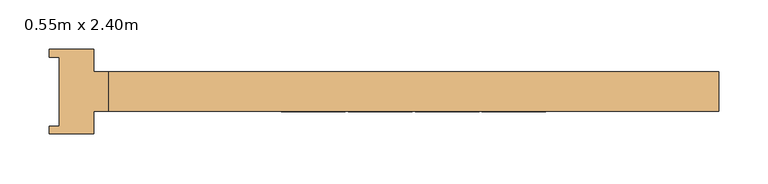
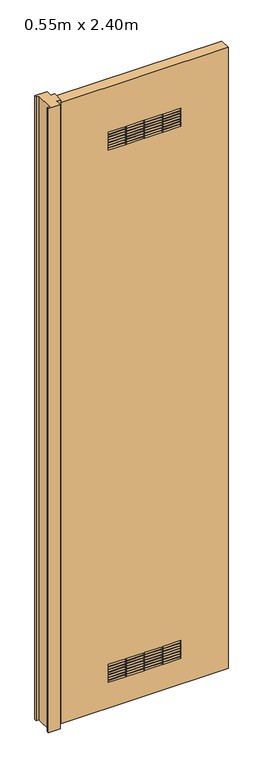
"""IFC4 building model written with IfcOpenShell, lengths in millimetres: door geometry, Va et vient simple - Panneau plein_GM : 0.55m x 2.40m."""

from ifc_helpers import new_model, si_unit, frame, origin, origin_with_axes, place, context, project, spatial, polyline, outline, extrude, source, transform, mapped, element, save


def door_0_55m_x_2_40m_4e9f651c(model_context):
    return source(origin(), model_context, "Body", "SweptSolid", [
        extrude(outline(polyline([(-360.0, -35.0), (-360.0, 35.0), (-370.0, 35.0), (-370.0, 43.0), (-325.0, 43.0), (-325.0, 20.0), (-310.0, 20.0), (-310.0, -20.0), (-325.0, -20.0), (-325.0, -43.0), (-370.0, -43.0), (-370.0, -35.0), (-360.0, -35.0)])), origin_with_axes(), (0.0, 0.0, 1.0), 2445.0),
        extrude(outline(polyline([(2435.0, 310.0), (2435.0, -310.0), (0.0, -310.0), (0.0, 310.0), (2435.0, 310.0)]), holes=[polyline([(2249.4836564, -69.5), (2249.4836564, -134.5), (2256.9836564, -134.5), (2256.9836564, -69.5), (2249.4836564, -69.5)]), polyline([(2238.9836564, -69.5), (2238.9836564, -134.5), (2246.4836564, -134.5), (2246.4836564, -69.5), (2238.9836564, -69.5)]), polyline([(2228.4836564, -69.5), (2228.4836564, -134.5), (2235.9836564, -134.5), (2235.9836564, -69.5), (2228.4836564, -69.5)]), polyline([(2217.9836564, -69.5), (2217.9836564, -134.5), (2225.4836564, -134.5), (2225.4836564, -69.5), (2217.9836564, -69.5)]), polyline([(2207.4836564, -69.5), (2207.4836564, -134.5), (2214.9836564, -134.5), (2214.9836564, -69.5), (2207.4836564, -69.5)]), polyline([(2196.9836564, -69.5), (2196.9836564, -134.5), (2204.4836564, -134.5), (2204.4836564, -69.5), (2196.9836564, -69.5)]), polyline([(2186.4836564, -69.5), (2186.4836564, -134.5), (2193.9836564, -134.5), (2193.9836564, -69.5), (2186.4836564, -69.5)]), polyline([(2249.4836564, -1.5), (2249.4836564, -66.5), (2256.9836564, -66.5), (2256.9836564, -1.5), (2249.4836564, -1.5)]), polyline([(2238.9836564, -1.5), (2238.9836564, -66.5), (2246.4836564, -66.5), (2246.4836564, -1.5), (2238.9836564, -1.5)]), polyline([(2228.4836564, -1.5), (2228.4836564, -66.5), (2235.9836564, -66.5), (2235.9836564, -1.5), (2228.4836564, -1.5)]), polyline([(2217.9836564, -1.5), (2217.9836564, -66.5), (2225.4836564, -66.5), (2225.4836564, -1.5), (2217.9836564, -1.5)]), polyline([(2207.4836564, -1.5), (2207.4836564, -66.5), (2214.9836564, -66.5), (2214.9836564, -1.5), (2207.4836564, -1.5)]), polyline([(2196.9836564, -1.5), (2196.9836564, -66.5), (2204.4836564, -66.5), (2204.4836564, -1.5), (2196.9836564, -1.5)]), polyline([(2186.4836564, -1.5), (2186.4836564, -66.5), (2193.9836564, -66.5), (2193.9836564, -1.5), (2186.4836564, -1.5)]), polyline([(2249.4836564, 66.5), (2249.4836564, 1.5), (2256.9836564, 1.5), (2256.9836564, 66.5), (2249.4836564, 66.5)]), polyline([(2238.9836564, 66.5), (2238.9836564, 1.5), (2246.4836564, 1.5), (2246.4836564, 66.5), (2238.9836564, 66.5)]), polyline([(2228.4836564, 66.5), (2228.4836564, 1.5), (2235.9836564, 1.5), (2235.9836564, 66.5), (2228.4836564, 66.5)]), polyline([(2217.9836564, 66.5), (2217.9836564, 1.5), (2225.4836564, 1.5), (2225.4836564, 66.5), (2217.9836564, 66.5)]), polyline([(2207.4836564, 66.5), (2207.4836564, 1.5), (2214.9836564, 1.5), (2214.9836564, 66.5), (2207.4836564, 66.5)]), polyline([(2196.9836564, 66.5), (2196.9836564, 1.5), (2204.4836564, 1.5), (2204.4836564, 66.5), (2196.9836564, 66.5)]), polyline([(2186.4836564, 66.5), (2186.4836564, 1.5), (2193.9836564, 1.5), (2193.9836564, 66.5), (2186.4836564, 66.5)]), polyline([(2249.4836564, 134.5), (2249.4836564, 69.5), (2256.9836564, 69.5), (2256.9836564, 134.5), (2249.4836564, 134.5)]), polyline([(2238.9836564, 134.5), (2238.9836564, 69.5), (2246.4836564, 69.5), (2246.4836564, 134.5), (2238.9836564, 134.5)]), polyline([(2228.4836564, 134.5), (2228.4836564, 69.5), (2235.9836564, 69.5), (2235.9836564, 134.5), (2228.4836564, 134.5)]), polyline([(2217.9836564, 134.5), (2217.9836564, 69.5), (2225.4836564, 69.5), (2225.4836564, 134.5), (2217.9836564, 134.5)]), polyline([(2207.4836564, 134.5), (2207.4836564, 69.5), (2214.9836564, 69.5), (2214.9836564, 134.5), (2207.4836564, 134.5)]), polyline([(2196.9836564, 134.5), (2196.9836564, 69.5), (2204.4836564, 69.5), (2204.4836564, 134.5), (2196.9836564, 134.5)]), polyline([(2186.4836564, 134.5), (2186.4836564, 69.5), (2193.9836564, 69.5), (2193.9836564, 134.5), (2186.4836564, 134.5)]), polyline([(163.0, -69.5), (163.0, -134.5), (170.5, -134.5), (170.5, -69.5), (163.0, -69.5)]), polyline([(152.5, -69.5), (152.5, -134.5), (160.0, -134.5), (160.0, -69.5), (152.5, -69.5)]), polyline([(142.0, -69.5), (142.0, -134.5), (149.5, -134.5), (149.5, -69.5), (142.0, -69.5)]), polyline([(131.5, -69.5), (131.5, -134.5), (139.0, -134.5), (139.0, -69.5), (131.5, -69.5)]), polyline([(121.0, -69.5), (121.0, -134.5), (128.5, -134.5), (128.5, -69.5), (121.0, -69.5)]), polyline([(110.5, -69.5), (110.5, -134.5), (118.0, -134.5), (118.0, -69.5), (110.5, -69.5)]), polyline([(100.0, -69.5), (100.0, -134.5), (107.5, -134.5), (107.5, -69.5), (100.0, -69.5)]), polyline([(163.0, -1.5), (163.0, -66.5), (170.5, -66.5), (170.5, -1.5), (163.0, -1.5)]), polyline([(152.5, -1.5), (152.5, -66.5), (160.0, -66.5), (160.0, -1.5), (152.5, -1.5)]), polyline([(142.0, -1.5), (142.0, -66.5), (149.5, -66.5), (149.5, -1.5), (142.0, -1.5)]), polyline([(131.5, -1.5), (131.5, -66.5), (139.0, -66.5), (139.0, -1.5), (131.5, -1.5)]), polyline([(121.0, -1.5), (121.0, -66.5), (128.5, -66.5), (128.5, -1.5), (121.0, -1.5)]), polyline([(110.5, -1.5), (110.5, -66.5), (118.0, -66.5), (118.0, -1.5), (110.5, -1.5)]), polyline([(100.0, -1.5), (100.0, -66.5), (107.5, -66.5), (107.5, -1.5), (100.0, -1.5)]), polyline([(163.0, 66.5), (163.0, 1.5), (170.5, 1.5), (170.5, 66.5), (163.0, 66.5)]), polyline([(152.5, 66.5), (152.5, 1.5), (160.0, 1.5), (160.0, 66.5), (152.5, 66.5)]), polyline([(142.0, 66.5), (142.0, 1.5), (149.5, 1.5), (149.5, 66.5), (142.0, 66.5)]), polyline([(131.5, 66.5), (131.5, 1.5), (139.0, 1.5), (139.0, 66.5), (131.5, 66.5)]), polyline([(121.0, 66.5), (121.0, 1.5), (128.5, 1.5), (128.5, 66.5), (121.0, 66.5)]), polyline([(110.5, 66.5), (110.5, 1.5), (118.0, 1.5), (118.0, 66.5), (110.5, 66.5)]), polyline([(100.0, 66.5), (100.0, 1.5), (107.5, 1.5), (107.5, 66.5), (100.0, 66.5)]), polyline([(163.0, 134.5), (163.0, 69.5), (170.5, 69.5), (170.5, 134.5), (163.0, 134.5)]), polyline([(152.5, 134.5), (152.5, 69.5), (160.0, 69.5), (160.0, 134.5), (152.5, 134.5)]), polyline([(142.0, 134.5), (142.0, 69.5), (149.5, 69.5), (149.5, 134.5), (142.0, 134.5)]), polyline([(131.5, 134.5), (131.5, 69.5), (139.0, 69.5), (139.0, 134.5), (131.5, 134.5)]), polyline([(121.0, 134.5), (121.0, 69.5), (128.5, 69.5), (128.5, 134.5), (121.0, 134.5)]), polyline([(110.5, 134.5), (110.5, 69.5), (118.0, 69.5), (118.0, 134.5), (110.5, 134.5)]), polyline([(100.0, 134.5), (100.0, 69.5), (107.5, 69.5), (107.5, 134.5), (100.0, 134.5)])]), frame((0.0, -20.0, 0.0), z_axis=(0.0, 1.0, 0.0), x_axis=(0.0, 0.0, 1.0)), (0.0, 0.0, 1.0), 40.0),
    ])


if __name__ == "__main__":
    model = new_model("IFC4")
    model_context = context("Model", 3, world=origin())
    ifc_project = project(units=[si_unit("LENGTHUNIT", "METRE", prefix="MILLI")], contexts=[model_context])
    site = spatial("IfcSite", under=ifc_project)
    building = spatial("IfcBuilding", under=site)
    placement = place(None, origin())
    door_0_55m_x_2_40m_shape = door_0_55m_x_2_40m_4e9f651c(model_context)
    element("IfcDoor", 1, ObjectType="Va et vient simple - Panneau plein_GM : 0.55m x 2.40m", at=placement, inside=building, context=model_context, shape_type="MappedRepresentation", body=[
        mapped(door_0_55m_x_2_40m_shape, transform((0.0, 0.0, 0.0), x_axis=(1.0, 0.0, 0.0), y_axis=(0.0, 1.0, 0.0), z_axis=(0.0, 0.0, 1.0))),
    ])
    save(model, "model.ifc")
